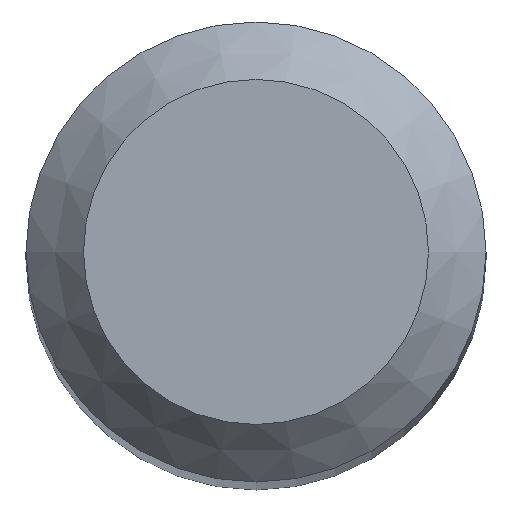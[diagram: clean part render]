
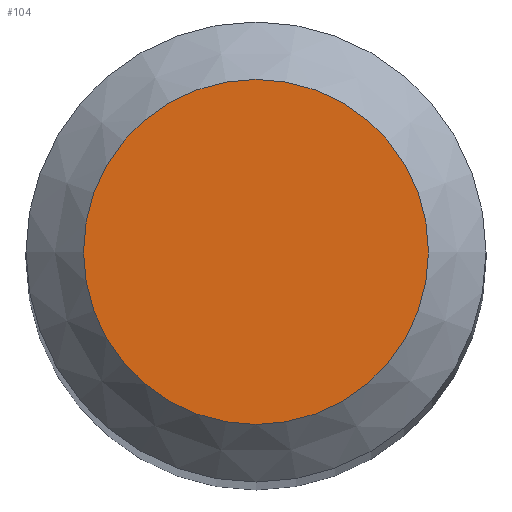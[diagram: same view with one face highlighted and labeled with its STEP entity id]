
A CAD part, top view. The second image highlights one B-rep face of the part: STEP entity #104.
In plain terms, the highlighted planar face has unit normal (0, 0, 1).
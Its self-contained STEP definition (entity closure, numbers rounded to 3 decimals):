
#88=CARTESIAN_POINT('',(1.5,0.0,60.0));
#89=DIRECTION('',(0.0,0.0,1.0));
#90=DIRECTION('',(1.0,0.0,0.0));
#91=AXIS2_PLACEMENT_3D('',#88,#89,#90);
#92=PLANE('',#91);
#93=CARTESIAN_POINT('',(-1.5,0.0,60.0));
#94=VERTEX_POINT('',#93);
#95=CARTESIAN_POINT('',(0.0,0.0,60.0));
#96=DIRECTION('',(0.0,0.0,-1.0));
#97=DIRECTION('',(-1.0,0.0,0.0));
#98=AXIS2_PLACEMENT_3D('',#95,#96,#97);
#99=CIRCLE('',#98,1.5);
#100=EDGE_CURVE('',#94,#94,#99,.T.);
#101=ORIENTED_EDGE('',*,*,#100,.F.);
#102=EDGE_LOOP('',(#101));
#103=FACE_OUTER_BOUND('',#102,.T.);
#104=ADVANCED_FACE('',(#103),#92,.T.);
